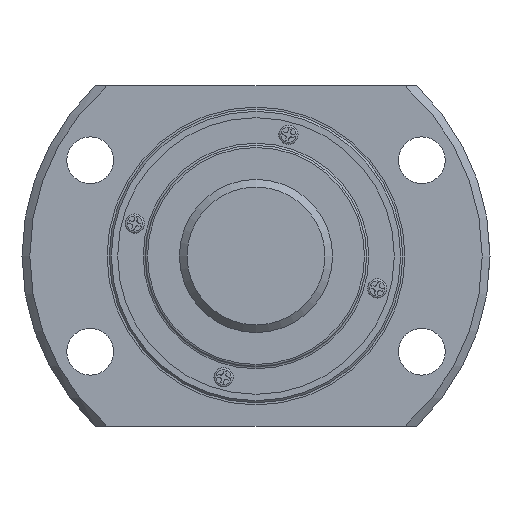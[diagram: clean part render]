
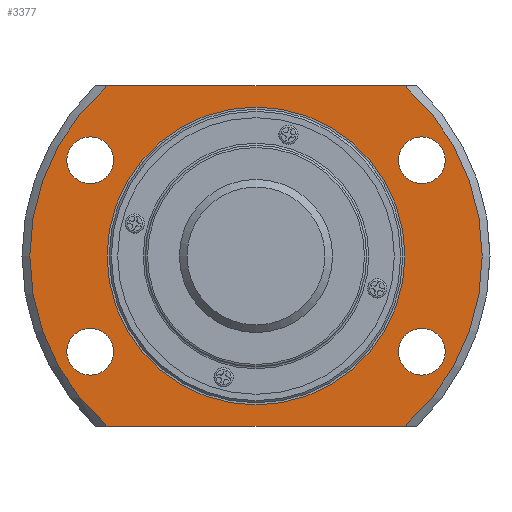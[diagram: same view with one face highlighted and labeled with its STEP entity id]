
A CAD part, left-side view. The second image highlights one B-rep face of the part: STEP entity #3377.
In plain terms, the highlighted planar face has unit normal (-1, 0, 0).
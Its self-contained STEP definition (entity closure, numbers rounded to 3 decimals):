
#37=LINE('',#5080,#365);
#38=LINE('',#5081,#366);
#365=VECTOR('',#4023,1000.);
#366=VECTOR('',#4024,1000.);
#721=PLANE('',#3628);
#887=ORIENTED_EDGE('',*,*,#1823,.T.);
#888=ORIENTED_EDGE('',*,*,#1824,.T.);
#889=ORIENTED_EDGE('',*,*,#1825,.T.);
#890=ORIENTED_EDGE('',*,*,#1826,.T.);
#891=ORIENTED_EDGE('',*,*,#1827,.T.);
#892=ORIENTED_EDGE('',*,*,#1818,.F.);
#893=ORIENTED_EDGE('',*,*,#1828,.T.);
#894=ORIENTED_EDGE('',*,*,#1821,.F.);
#895=ORIENTED_EDGE('',*,*,#1829,.T.);
#1818=EDGE_CURVE('',#2286,#2287,#2617,.T.);
#1821=EDGE_CURVE('',#2288,#2289,#2618,.T.);
#1823=EDGE_CURVE('',#2290,#2290,#2619,.T.);
#1824=EDGE_CURVE('',#2291,#2291,#2620,.T.);
#1825=EDGE_CURVE('',#2292,#2292,#2621,.T.);
#1826=EDGE_CURVE('',#2293,#2293,#2622,.T.);
#1827=EDGE_CURVE('',#2294,#2294,#2623,.T.);
#1828=EDGE_CURVE('',#2286,#2289,#37,.T.);
#1829=EDGE_CURVE('',#2288,#2287,#38,.T.);
#2286=VERTEX_POINT('',#5050);
#2287=VERTEX_POINT('',#5052);
#2288=VERTEX_POINT('',#5062);
#2289=VERTEX_POINT('',#5064);
#2290=VERTEX_POINT('',#5071);
#2291=VERTEX_POINT('',#5073);
#2292=VERTEX_POINT('',#5075);
#2293=VERTEX_POINT('',#5077);
#2294=VERTEX_POINT('',#5079);
#2617=CIRCLE('',#3625,53.167);
#2618=CIRCLE('',#3627,53.167);
#2619=CIRCLE('',#3629,35.);
#2620=CIRCLE('',#3630,5.5);
#2621=CIRCLE('',#3631,5.5);
#2622=CIRCLE('',#3632,5.5);
#2623=CIRCLE('',#3633,5.5);
#2759=EDGE_LOOP('',(#887));
#2760=EDGE_LOOP('',(#888));
#2761=EDGE_LOOP('',(#889));
#2762=EDGE_LOOP('',(#890));
#2763=EDGE_LOOP('',(#891));
#2764=EDGE_LOOP('',(#892,#893,#894,#895));
#3043=FACE_BOUND('',#2759,.T.);
#3044=FACE_BOUND('',#2760,.T.);
#3045=FACE_BOUND('',#2761,.T.);
#3046=FACE_BOUND('',#2762,.T.);
#3047=FACE_BOUND('',#2763,.T.);
#3048=FACE_BOUND('',#2764,.T.);
#3377=ADVANCED_FACE('',(#3043,#3044,#3045,#3046,#3047,#3048),#721,.T.);
#3625=AXIS2_PLACEMENT_3D('',#5051,#4005,#4006);
#3627=AXIS2_PLACEMENT_3D('',#5063,#4009,#4010);
#3628=AXIS2_PLACEMENT_3D('',#5069,#4011,#4012);
#3629=AXIS2_PLACEMENT_3D('',#5070,#4013,#4014);
#3630=AXIS2_PLACEMENT_3D('',#5072,#4015,#4016);
#3631=AXIS2_PLACEMENT_3D('',#5074,#4017,#4018);
#3632=AXIS2_PLACEMENT_3D('',#5076,#4019,#4020);
#3633=AXIS2_PLACEMENT_3D('',#5078,#4021,#4022);
#4005=DIRECTION('',(1.,0.,0.));
#4006=DIRECTION('',(0.,0.,-1.));
#4009=DIRECTION('',(1.,0.,0.));
#4010=DIRECTION('',(0.,0.,-1.));
#4011=DIRECTION('',(-1.,0.,0.));
#4012=DIRECTION('',(0.,0.,1.));
#4013=DIRECTION('',(1.,0.,0.));
#4014=DIRECTION('',(0.,0.,-1.));
#4015=DIRECTION('',(1.,0.,0.));
#4016=DIRECTION('',(0.,0.,-1.));
#4017=DIRECTION('',(1.,0.,0.));
#4018=DIRECTION('',(0.,0.,-1.));
#4019=DIRECTION('',(1.,0.,0.));
#4020=DIRECTION('',(0.,0.,-1.));
#4021=DIRECTION('',(1.,0.,0.));
#4022=DIRECTION('',(0.,0.,-1.));
#4023=DIRECTION('',(0.,1.,0.));
#4024=DIRECTION('',(0.,-1.,0.));
#5050=CARTESIAN_POINT('',(16.,-35.024,40.));
#5051=CARTESIAN_POINT('',(16.,0.,0.));
#5052=CARTESIAN_POINT('',(16.,-35.024,-40.));
#5062=CARTESIAN_POINT('',(16.,35.024,-40.));
#5063=CARTESIAN_POINT('',(16.,0.,0.));
#5064=CARTESIAN_POINT('',(16.,35.024,40.));
#5069=CARTESIAN_POINT('',(16.,53.167,0.));
#5070=CARTESIAN_POINT('',(16.,0.,0.));
#5071=CARTESIAN_POINT('',(16.,0.,-35.));
#5072=CARTESIAN_POINT('',(16.,-38.971,22.5));
#5073=CARTESIAN_POINT('',(16.,-38.971,17.));
#5074=CARTESIAN_POINT('',(16.,38.971,-22.5));
#5075=CARTESIAN_POINT('',(16.,38.971,-28.));
#5076=CARTESIAN_POINT('',(16.,-38.971,-22.5));
#5077=CARTESIAN_POINT('',(16.,-38.971,-28.));
#5078=CARTESIAN_POINT('',(16.,38.971,22.5));
#5079=CARTESIAN_POINT('',(16.,38.971,17.));
#5080=CARTESIAN_POINT('',(16.,53.167,40.));
#5081=CARTESIAN_POINT('',(16.,53.167,-40.));
